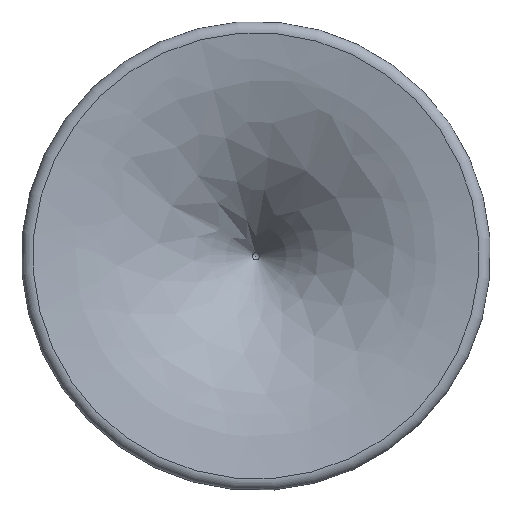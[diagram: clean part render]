
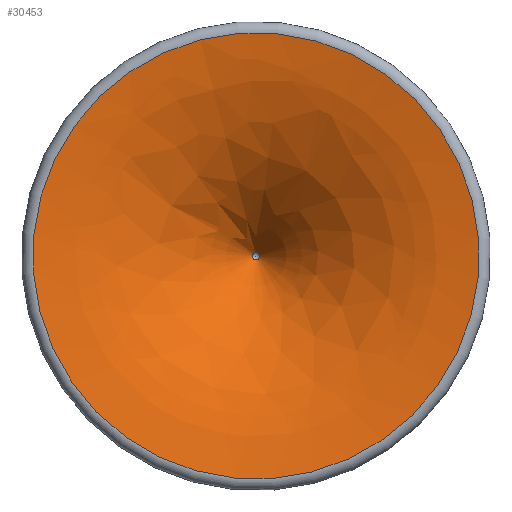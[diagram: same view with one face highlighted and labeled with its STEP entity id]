
A CAD part, top view. The second image highlights one B-rep face of the part: STEP entity #30453.
In plain terms, the highlighted free-form (B-spline) face has degree [2, 2] with [3, 9] control points.
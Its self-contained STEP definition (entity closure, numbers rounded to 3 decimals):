
#453=(
BOUNDED_SURFACE()
B_SPLINE_SURFACE(2,2,((#46615,#46616,#46617,#46618,#46619,#46620,#46621,
#46622,#46623),(#46624,#46625,#46626,#46627,#46628,#46629,#46630,#46631,
#46632),(#46633,#46634,#46635,#46636,#46637,#46638,#46639,#46640,#46641)),
 .UNSPECIFIED.,.F.,.T.,.F.)
B_SPLINE_SURFACE_WITH_KNOTS((3,3),(3,2,2,2,3),(1.675,2.543),
(-3.142,-1.571,0.,1.571,3.142),
 .UNSPECIFIED.)
GEOMETRIC_REPRESENTATION_ITEM()
RATIONAL_B_SPLINE_SURFACE(((1.,0.707,1.,0.707,1.,
0.707,1.,0.707,1.),(0.907,0.642,
0.907,0.642,0.907,0.642,
0.907,0.642,0.907),(1.,0.707,
1.,0.707,1.,0.707,1.,0.707,1.)))
REPRESENTATION_ITEM('')
SURFACE()
);
#7503=FACE_OUTER_BOUND('',#9233,.T.);
#9233=EDGE_LOOP('',(#20330,#20331,#20332,#20333,#20334));
#11138=CIRCLE('',#32890,4.129);
#11140=CIRCLE('',#32892,4.129);
#11141=CIRCLE('',#32893,256.751);
#11142=CIRCLE('',#32894,350.);
#12901=VERTEX_POINT('',#46609);
#12902=VERTEX_POINT('',#46610);
#12904=VERTEX_POINT('',#46642);
#15808=EDGE_CURVE('',#12901,#12902,#11138,.T.);
#15810=EDGE_CURVE('',#12902,#12901,#11140,.T.);
#15811=EDGE_CURVE('',#12904,#12904,#11141,.T.);
#15812=EDGE_CURVE('',#12904,#12901,#11142,.T.);
#20330=ORIENTED_EDGE('',*,*,#15811,.T.);
#20331=ORIENTED_EDGE('',*,*,#15812,.T.);
#20332=ORIENTED_EDGE('',*,*,#15810,.F.);
#20333=ORIENTED_EDGE('',*,*,#15808,.F.);
#20334=ORIENTED_EDGE('',*,*,#15812,.F.);
#30453=ADVANCED_FACE('',(#7503),#453,.F.);
#32890=AXIS2_PLACEMENT_3D('',#46611,#36544,#36545);
#32892=AXIS2_PLACEMENT_3D('',#46614,#36548,#36549);
#32893=AXIS2_PLACEMENT_3D('',#46643,#36550,#36551);
#32894=AXIS2_PLACEMENT_3D('',#46644,#36552,#36553);
#36544=DIRECTION('center_axis',(0.,0.,1.));
#36545=DIRECTION('ref_axis',(1.,0.,0.));
#36548=DIRECTION('center_axis',(0.,0.,1.));
#36549=DIRECTION('ref_axis',(1.,0.,0.));
#36550=DIRECTION('center_axis',(0.,0.,1.));
#36551=DIRECTION('ref_axis',(1.,0.,0.));
#36552=DIRECTION('center_axis',(0.,1.,0.));
#36553=DIRECTION('ref_axis',(-1.,0.,0.));
#46609=CARTESIAN_POINT('',(-4.129,0.,338.681));
#46610=CARTESIAN_POINT('',(0.,4.129,338.681));
#46611=CARTESIAN_POINT('Origin',(0.,0.,338.681));
#46614=CARTESIAN_POINT('Origin',(0.,0.,338.681));
#46615=CARTESIAN_POINT('Ctrl Pts',(-256.751,0.,
489.435));
#46616=CARTESIAN_POINT('Ctrl Pts',(-256.751,-256.751,
489.435));
#46617=CARTESIAN_POINT('Ctrl Pts',(0.,-256.751,
489.435));
#46618=CARTESIAN_POINT('Ctrl Pts',(256.751,-256.751,489.435));
#46619=CARTESIAN_POINT('Ctrl Pts',(256.751,0.,
489.435));
#46620=CARTESIAN_POINT('Ctrl Pts',(256.751,256.751,489.435));
#46621=CARTESIAN_POINT('Ctrl Pts',(0.,256.751,
489.435));
#46622=CARTESIAN_POINT('Ctrl Pts',(-256.751,256.751,489.435));
#46623=CARTESIAN_POINT('Ctrl Pts',(-256.751,0.,
489.435));
#46624=CARTESIAN_POINT('Ctrl Pts',(-95.529,0.,
472.559));
#46625=CARTESIAN_POINT('Ctrl Pts',(-95.529,-95.529,
472.559));
#46626=CARTESIAN_POINT('Ctrl Pts',(0.,-95.529,
472.559));
#46627=CARTESIAN_POINT('Ctrl Pts',(95.529,-95.529,472.559));
#46628=CARTESIAN_POINT('Ctrl Pts',(95.529,0.,
472.559));
#46629=CARTESIAN_POINT('Ctrl Pts',(95.529,95.529,472.559));
#46630=CARTESIAN_POINT('Ctrl Pts',(0.,95.529,
472.559));
#46631=CARTESIAN_POINT('Ctrl Pts',(-95.529,95.529,472.559));
#46632=CARTESIAN_POINT('Ctrl Pts',(-95.529,0.,
472.559));
#46633=CARTESIAN_POINT('Ctrl Pts',(-4.129,0.,
338.681));
#46634=CARTESIAN_POINT('Ctrl Pts',(-4.129,-4.129,338.681));
#46635=CARTESIAN_POINT('Ctrl Pts',(0.,-4.129,
338.681));
#46636=CARTESIAN_POINT('Ctrl Pts',(4.129,-4.129,338.681));
#46637=CARTESIAN_POINT('Ctrl Pts',(4.129,0.,
338.681));
#46638=CARTESIAN_POINT('Ctrl Pts',(4.129,4.129,338.681));
#46639=CARTESIAN_POINT('Ctrl Pts',(0.,4.129,
338.681));
#46640=CARTESIAN_POINT('Ctrl Pts',(-4.129,4.129,338.681));
#46641=CARTESIAN_POINT('Ctrl Pts',(-4.129,0.,
338.681));
#46642=CARTESIAN_POINT('',(-256.751,0.,489.435));
#46643=CARTESIAN_POINT('Origin',(0.,0.,489.435));
#46644=CARTESIAN_POINT('Origin',(-293.189,0.,
141.337));
